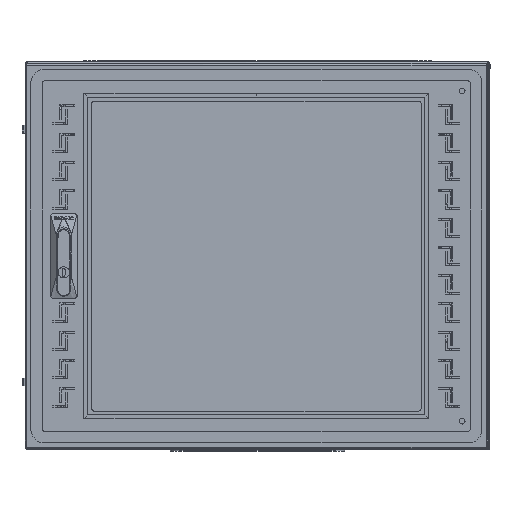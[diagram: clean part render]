
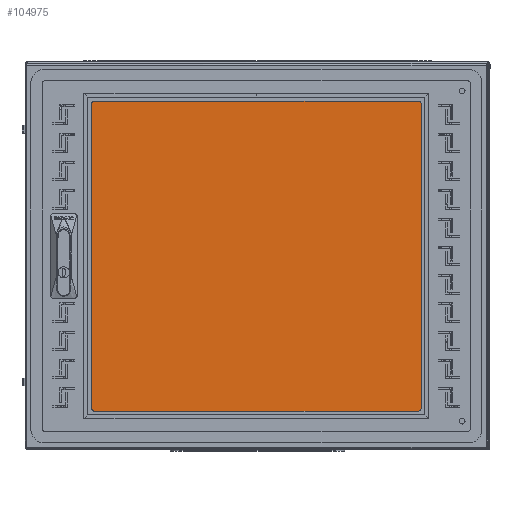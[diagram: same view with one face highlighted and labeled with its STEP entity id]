
A CAD part, top view. The second image highlights one B-rep face of the part: STEP entity #104975.
In plain terms, the highlighted planar face has unit normal (0, 0, 1) as drawn and (0, 0, -1) by its records, which use the part's own axes.
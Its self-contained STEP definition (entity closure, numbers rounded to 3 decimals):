
#2760 = CARTESIAN_POINT ( 'NONE',  ( -217.5, -205., 0. ) ) ;
#2767 = EDGE_LOOP ( 'NONE', ( #105515, #34652, #85852, #79753 ) ) ;
#3078 = EDGE_CURVE ( 'NONE', #104753, #105249, #71675, .T. ) ;
#3313 = CARTESIAN_POINT ( 'NONE',  ( -217.5, -205., 0. ) ) ;
#3933 = DIRECTION ( 'NONE',  ( -1., 0., 0. ) ) ;
#5038 = FACE_OUTER_BOUND ( 'NONE', #2767, .T. ) ;
#13651 = VERTEX_POINT ( 'NONE', #3313 ) ;
#14362 = LINE ( 'NONE', #117827, #64149 ) ;
#27351 = CARTESIAN_POINT ( 'NONE',  ( 217.5, 205., 0. ) ) ;
#34652 = ORIENTED_EDGE ( 'NONE', *, *, #41016, .F. ) ;
#36292 = CARTESIAN_POINT ( 'NONE',  ( -217.5, 205., 0. ) ) ;
#41016 = EDGE_CURVE ( 'NONE', #13651, #104753, #127289, .T. ) ;
#44712 = LINE ( 'NONE', #36292, #88287 ) ;
#44731 = VECTOR ( 'NONE', #52350, 1000. ) ;
#47373 = AXIS2_PLACEMENT_3D ( 'NONE', #123210, #63511, #3933 ) ;
#49370 = DIRECTION ( 'NONE',  ( 0., 1., 0. ) ) ;
#52350 = DIRECTION ( 'NONE',  ( 1., 0., 0. ) ) ;
#53515 = PLANE ( 'NONE',  #47373 ) ;
#63511 = DIRECTION ( 'NONE',  ( 0., 0., -1. ) ) ;
#64149 = VECTOR ( 'NONE', #127788, 1000. ) ;
#68572 = VECTOR ( 'NONE', #49370, 1000. ) ;
#70441 = VERTEX_POINT ( 'NONE', #122719 ) ;
#71675 = LINE ( 'NONE', #98108, #68572 ) ;
#75119 = EDGE_CURVE ( 'NONE', #105249, #70441, #44712, .T. ) ;
#79753 = ORIENTED_EDGE ( 'NONE', *, *, #75119, .F. ) ;
#80533 = CARTESIAN_POINT ( 'NONE',  ( 217.5, -205., 0. ) ) ;
#80862 = EDGE_CURVE ( 'NONE', #70441, #13651, #14362, .T. ) ;
#85852 = ORIENTED_EDGE ( 'NONE', *, *, #80862, .F. ) ;
#88287 = VECTOR ( 'NONE', #116400, 1000. ) ;
#98108 = CARTESIAN_POINT ( 'NONE',  ( 217.5, -205., 0. ) ) ;
#104753 = VERTEX_POINT ( 'NONE', #80533 ) ;
#104975 = ADVANCED_FACE ( 'NONE', ( #5038 ), #53515, .T. ) ;
#105249 = VERTEX_POINT ( 'NONE', #27351 ) ;
#105515 = ORIENTED_EDGE ( 'NONE', *, *, #3078, .F. ) ;
#116400 = DIRECTION ( 'NONE',  ( -1., 0., 0. ) ) ;
#117827 = CARTESIAN_POINT ( 'NONE',  ( -217.5, -205., 0. ) ) ;
#122719 = CARTESIAN_POINT ( 'NONE',  ( -217.5, 205., 0. ) ) ;
#123210 = CARTESIAN_POINT ( 'NONE',  ( 0., 0., 0. ) ) ;
#127289 = LINE ( 'NONE', #2760, #44731 ) ;
#127788 = DIRECTION ( 'NONE',  ( 0., -1., 0. ) ) ;
